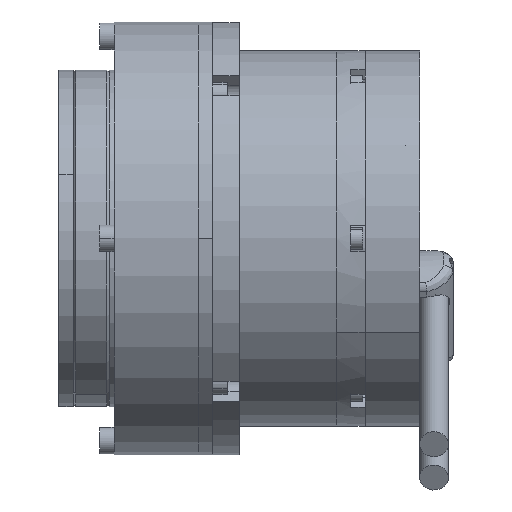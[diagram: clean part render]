
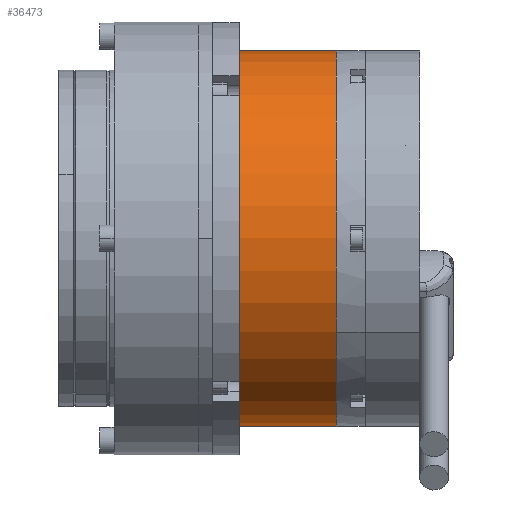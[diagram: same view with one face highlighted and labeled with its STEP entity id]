
A CAD part, left-side view. The second image highlights one B-rep face of the part: STEP entity #36473.
In plain terms, the highlighted cylindrical face has radius 39 mm (diameter 78 mm), a partial arc.
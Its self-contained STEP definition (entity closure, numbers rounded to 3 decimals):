
#1020 = VECTOR ( 'NONE', #47017, 1000. ) ;
#3310 = CARTESIAN_POINT ( 'NONE',  ( 0., -28.7, 0. ) ) ;
#4317 = CIRCLE ( 'NONE', #17003, 39. ) ;
#4577 = VERTEX_POINT ( 'NONE', #38056 ) ;
#4973 = EDGE_LOOP ( 'NONE', ( #8757, #19821, #26150, #14736 ) ) ;
#7626 = AXIS2_PLACEMENT_3D ( 'NONE', #46525, #46060, #38358 ) ;
#8757 = ORIENTED_EDGE ( 'NONE', *, *, #29803, .F. ) ;
#11806 = AXIS2_PLACEMENT_3D ( 'NONE', #3310, #37623, #49098 ) ;
#13628 = EDGE_CURVE ( 'NONE', #4577, #39476, #45715, .T. ) ;
#13972 = FACE_OUTER_BOUND ( 'NONE', #4973, .T. ) ;
#14566 = CARTESIAN_POINT ( 'NONE',  ( 0., -28.7, -39. ) ) ;
#14736 = ORIENTED_EDGE ( 'NONE', *, *, #43732, .T. ) ;
#15004 = DIRECTION ( 'NONE',  ( 0., 0., 1. ) ) ;
#15238 = CARTESIAN_POINT ( 'NONE',  ( 0., -8.5, 0. ) ) ;
#17003 = AXIS2_PLACEMENT_3D ( 'NONE', #15238, #49133, #15004 ) ;
#18743 = CYLINDRICAL_SURFACE ( 'NONE', #11806, 39. ) ;
#19821 = ORIENTED_EDGE ( 'NONE', *, *, #13628, .F. ) ;
#23638 = CARTESIAN_POINT ( 'NONE',  ( 0., -28.7, 39. ) ) ;
#26150 = ORIENTED_EDGE ( 'NONE', *, *, #36743, .T. ) ;
#29159 = LINE ( 'NONE', #23638, #44400 ) ;
#29587 = VERTEX_POINT ( 'NONE', #37372 ) ;
#29803 = EDGE_CURVE ( 'NONE', #39476, #41808, #31628, .T. ) ;
#31628 = LINE ( 'NONE', #39312, #1020 ) ;
#36473 = ADVANCED_FACE ( 'NONE', ( #13972 ), #18743, .T. ) ;
#36743 = EDGE_CURVE ( 'NONE', #4577, #29587, #29159, .T. ) ;
#37372 = CARTESIAN_POINT ( 'NONE',  ( 0., -8.5, 39. ) ) ;
#37623 = DIRECTION ( 'NONE',  ( 0., 1., 0. ) ) ;
#38056 = CARTESIAN_POINT ( 'NONE',  ( 0., -28.7, 39. ) ) ;
#38358 = DIRECTION ( 'NONE',  ( 0., 0., -1. ) ) ;
#39312 = CARTESIAN_POINT ( 'NONE',  ( 0., -28.7, -39. ) ) ;
#39476 = VERTEX_POINT ( 'NONE', #14566 ) ;
#41808 = VERTEX_POINT ( 'NONE', #43540 ) ;
#43540 = CARTESIAN_POINT ( 'NONE',  ( 0., -8.5, -39. ) ) ;
#43732 = EDGE_CURVE ( 'NONE', #29587, #41808, #4317, .T. ) ;
#44400 = VECTOR ( 'NONE', #46463, 1000. ) ;
#45715 = CIRCLE ( 'NONE', #7626, 39. ) ;
#46060 = DIRECTION ( 'NONE',  ( 0., -1., 0. ) ) ;
#46463 = DIRECTION ( 'NONE',  ( 0., 1., 0. ) ) ;
#46525 = CARTESIAN_POINT ( 'NONE',  ( 0., -28.7, 0. ) ) ;
#47017 = DIRECTION ( 'NONE',  ( 0., 1., 0. ) ) ;
#49098 = DIRECTION ( 'NONE',  ( 0., 0., 1. ) ) ;
#49133 = DIRECTION ( 'NONE',  ( 0., -1., 0. ) ) ;
